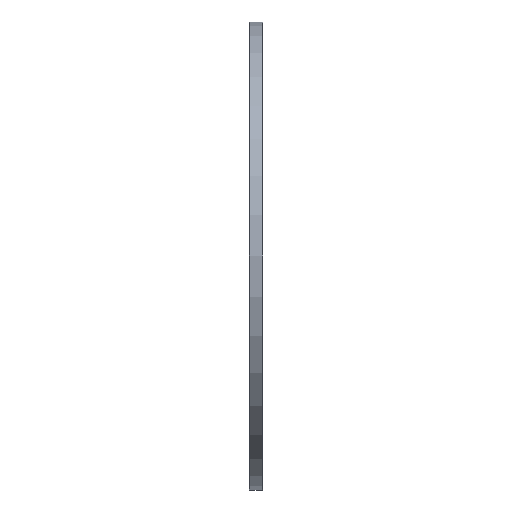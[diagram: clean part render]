
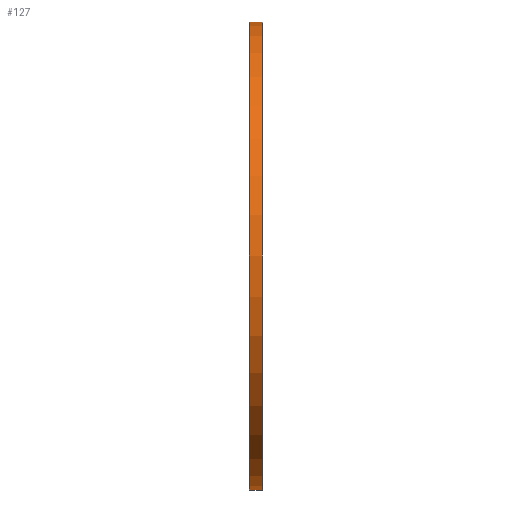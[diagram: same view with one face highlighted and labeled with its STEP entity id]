
A CAD part, left-side view. The second image highlights one B-rep face of the part: STEP entity #127.
In plain terms, the highlighted cylindrical face has radius 410 mm (diameter 820 mm), a partial arc.
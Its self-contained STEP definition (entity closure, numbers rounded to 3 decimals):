
#127=ADVANCED_FACE('',(#318),#319,.T.);
#318=FACE_OUTER_BOUND('',#574,.T.);
#319=CYLINDRICAL_SURFACE('',#575,410.0);
#574=EDGE_LOOP('',(#1118,#1119,#1120,#1121));
#575=AXIS2_PLACEMENT_3D('',#1122,#1123,#1124);
#1118=ORIENTED_EDGE('',*,*,#1606,.F.);
#1119=ORIENTED_EDGE('',*,*,#1671,.T.);
#1120=ORIENTED_EDGE('',*,*,#1608,.T.);
#1121=ORIENTED_EDGE('',*,*,#1670,.F.);
#1122=CARTESIAN_POINT('',(0.0,0.0,0.0));
#1123=DIRECTION('',(0.0,-1.0,0.0));
#1124=DIRECTION('',(0.0,0.0,1.0));
#1606=EDGE_CURVE('',#1973,#1978,#1979,.T.);
#1608=EDGE_CURVE('',#1975,#1980,#1982,.T.);
#1670=EDGE_CURVE('',#1978,#1980,#2060,.T.);
#1671=EDGE_CURVE('',#1973,#1975,#2061,.T.);
#1973=VERTEX_POINT('',#2427);
#1975=VERTEX_POINT('',#2430);
#1978=VERTEX_POINT('',#2434);
#1979=LINE('',#2435,#2436);
#1980=VERTEX_POINT('',#2437);
#1982=LINE('',#2439,#2440);
#2060=CIRCLE('',#2528,410.0);
#2061=CIRCLE('',#2529,410.0);
#2427=CARTESIAN_POINT('',(0.,-18.325,-410.0));
#2430=CARTESIAN_POINT('',(0.0,-18.325,410.0));
#2434=CARTESIAN_POINT('',(0.0,3.675,-410.0));
#2435=CARTESIAN_POINT('',(0.,0.0,-410.0));
#2436=VECTOR('',#2844,1000.0);
#2437=CARTESIAN_POINT('',(0.,3.675,410.0));
#2439=CARTESIAN_POINT('',(0.0,0.0,410.0));
#2440=VECTOR('',#2848,1000.0);
#2528=AXIS2_PLACEMENT_3D('',#3012,#3013,#3014);
#2529=AXIS2_PLACEMENT_3D('',#3015,#3016,#3017);
#2844=DIRECTION('',(-0.0,1.0,-0.0));
#2848=DIRECTION('',(-0.0,1.0,-0.0));
#3012=CARTESIAN_POINT('',(0.0,3.675,0.0));
#3013=DIRECTION('',(-0.0,1.0,0.0));
#3014=DIRECTION('',(0.0,0.0,1.0));
#3015=CARTESIAN_POINT('',(0.0,-18.325,0.0));
#3016=DIRECTION('',(-0.0,1.0,0.0));
#3017=DIRECTION('',(0.0,0.0,1.0));
